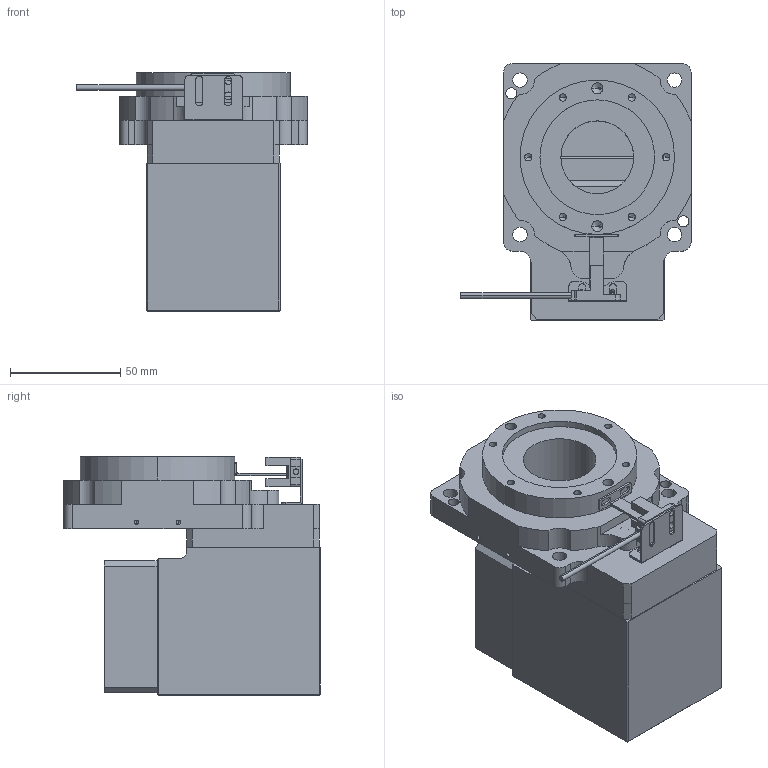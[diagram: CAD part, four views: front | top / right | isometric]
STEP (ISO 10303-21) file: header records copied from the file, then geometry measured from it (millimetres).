
FILE_DESCRIPTION (( 'STEP AP203' ), '1' );
FILE_NAME ('RTR85-20K-30K-14-50-70-M4(ºó·½Ïò).STEP', '2024-05-21T10:52:40', ( '' ), ( '' ), 'SwSTEP 2.0', 'SolidWorks 2023', '' );
FILE_SCHEMA (( 'CONFIG_CONTROL_DESIGN' ));
Length unit declared in the file: millimetre
Products named in the file (1): RTR85-20K-30K-14-50-70-M4(后方向)
Bounding box: 104.3 x 116.3 x 108 mm (x, y, z)
Volume: 526771.9 mm3; surface area: 143268.9 mm2
Topology: 41 solids, 47 shells, 1367 faces, 3824 edges, 2258 vertices
Faces by surface type: cylinder 376, plane 263, cone 241, torus 222, sphere 212, bspline 53
Entity records: 51451 total; most frequent: CARTESIAN_POINT 19446, ORIENTED_EDGE 6864, DIRECTION 6578, EDGE_CURVE 3432, AXIS2_PLACEMENT_3D 2766, VERTEX_POINT 2152, EDGE_LOOP 1510, CIRCLE 1451
